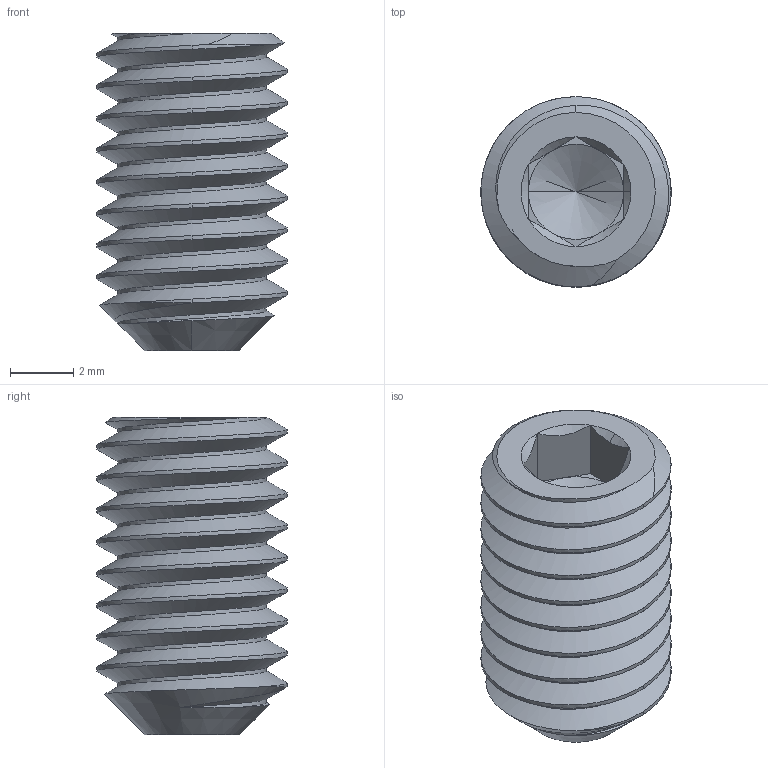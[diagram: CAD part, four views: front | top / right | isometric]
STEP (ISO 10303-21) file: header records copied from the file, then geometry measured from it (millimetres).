
FILE_DESCRIPTION (( 'STEP AP203' ), '1' );
FILE_NAME ('Cup-Point Set Screw 6x10.STEP', '2025-09-25T16:35:19', ( '' ), ( '' ), 'SwSTEP 2.0', 'SolidWorks 2024', '' );
FILE_SCHEMA (( 'CONFIG_CONTROL_DESIGN' ));
Length unit declared in the file: millimetre
Products named in the file (1): Cup-Point Set Screw 6x10
Bounding box: 5.99 x 6 x 10 mm (x, y, z)
Volume: 196.6 mm3; surface area: 328.5 mm2
Topology: 1 solids, 1 shells, 49 faces, 121 edges, 71 vertices
Faces by surface type: cylinder 18, cone 15, plane 13, bspline 3
Entity records: 3119 total; most frequent: CARTESIAN_POINT 2057, ORIENTED_EDGE 234, DIRECTION 175, EDGE_CURVE 117, VERTEX_POINT 71, AXIS2_PLACEMENT_3D 66, EDGE_LOOP 50, FACE_OUTER_BOUND 49
